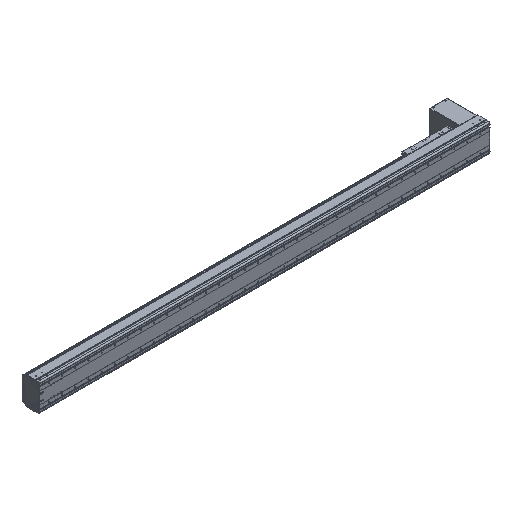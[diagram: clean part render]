
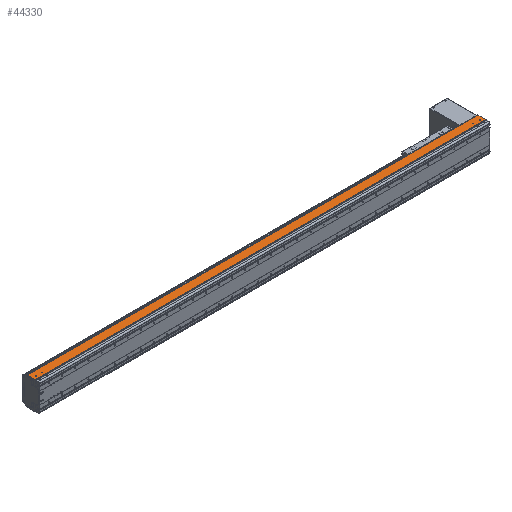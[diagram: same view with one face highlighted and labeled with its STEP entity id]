
A CAD part, isometric view. The second image highlights one B-rep face of the part: STEP entity #44330.
In plain terms, the highlighted planar face has unit normal (0, 0, 1).
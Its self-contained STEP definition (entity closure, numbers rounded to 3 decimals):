
#16192=DIRECTION('',(-1.,-0.006,-0.017));
#16193=VECTOR('',#16192,1.5);
#16194=CARTESIAN_POINT('',(1.5,94.,107.));
#16195=LINE('',#16194,#16193);
#16196=DIRECTION('',(-1.,0.,0.));
#16197=VECTOR('',#16196,3448.5);
#16198=CARTESIAN_POINT('',(0.,93.5,107.));
#16199=LINE('',#16198,#16197);
#16224=CARTESIAN_POINT('',(0.,93.992,
106.974));
#16225=CARTESIAN_POINT('',(0.,93.906,
106.974));
#16226=CARTESIAN_POINT('',(0.,93.75,
107.013));
#16227=CARTESIAN_POINT('',(0.,93.581,107.));
#16228=CARTESIAN_POINT('',(0.,93.5,107.));
#16230=CARTESIAN_POINT('',(-3423.5,54.,107.));
#16231=DIRECTION('',(0.,0.,-1.));
#16232=DIRECTION('',(1.,0.,0.));
#16233=AXIS2_PLACEMENT_3D('',#16230,#16231,#16232);
#16235=CARTESIAN_POINT('',(-3423.5,54.,107.));
#16236=DIRECTION('',(0.,0.,-1.));
#16237=DIRECTION('',(-1.,0.,0.));
#16238=AXIS2_PLACEMENT_3D('',#16235,#16236,#16237);
#16240=CARTESIAN_POINT('',(-3373.5,54.,107.));
#16241=DIRECTION('',(0.,0.,-1.));
#16242=DIRECTION('',(1.,0.,0.));
#16243=AXIS2_PLACEMENT_3D('',#16240,#16241,#16242);
#16245=CARTESIAN_POINT('',(-3373.5,54.,107.));
#16246=DIRECTION('',(0.,0.,-1.));
#16247=DIRECTION('',(-1.,0.,0.));
#16248=AXIS2_PLACEMENT_3D('',#16245,#16246,#16247);
#16250=CARTESIAN_POINT('',(-23.5,54.,107.));
#16251=DIRECTION('',(0.,0.,-1.));
#16252=DIRECTION('',(1.,0.,0.));
#16253=AXIS2_PLACEMENT_3D('',#16250,#16251,#16252);
#16255=CARTESIAN_POINT('',(-23.5,54.,107.));
#16256=DIRECTION('',(0.,0.,-1.));
#16257=DIRECTION('',(-1.,0.,0.));
#16258=AXIS2_PLACEMENT_3D('',#16255,#16256,#16257);
#16260=CARTESIAN_POINT('',(-73.5,54.,107.));
#16261=DIRECTION('',(0.,0.,-1.));
#16262=DIRECTION('',(1.,0.,0.));
#16263=AXIS2_PLACEMENT_3D('',#16260,#16261,#16262);
#16265=CARTESIAN_POINT('',(-73.5,54.,107.));
#16266=DIRECTION('',(0.,0.,-1.));
#16267=DIRECTION('',(-1.,0.,0.));
#16268=AXIS2_PLACEMENT_3D('',#16265,#16266,#16267);
#16270=DIRECTION('',(0.,-1.,0.));
#16271=VECTOR('',#16270,2.55);
#16272=CARTESIAN_POINT('',(-3446.5,34.65,107.));
#16273=LINE('',#16272,#16271);
#16274=DIRECTION('',(0.,-1.,0.));
#16275=VECTOR('',#16274,58.85);
#16276=CARTESIAN_POINT('',(-3448.5,93.5,107.));
#16277=LINE('',#16276,#16275);
#16278=DIRECTION('',(0.,1.,0.));
#16279=VECTOR('',#16278,58.35);
#16280=CARTESIAN_POINT('',(1.5,35.65,107.));
#16281=LINE('',#16280,#16279);
#16282=DIRECTION('',(0.,1.,0.));
#16283=VECTOR('',#16282,3.55);
#16284=CARTESIAN_POINT('',(0.,32.1,107.));
#16285=LINE('',#16284,#16283);
#16286=DIRECTION('',(1.,0.,0.));
#16287=VECTOR('',#16286,3446.5);
#16288=CARTESIAN_POINT('',(-3446.5,32.1,107.));
#16289=LINE('',#16288,#16287);
#16398=DIRECTION('',(1.,0.,0.));
#16399=VECTOR('',#16398,2.);
#16400=CARTESIAN_POINT('',(-3448.5,34.65,107.));
#16401=LINE('',#16400,#16399);
#16422=DIRECTION('',(1.,0.,0.));
#16423=VECTOR('',#16422,1.5);
#16424=CARTESIAN_POINT('',(0.,35.65,107.));
#16425=LINE('',#16424,#16423);
#20678=CARTESIAN_POINT('',(1.5,94.,107.));
#20679=VERTEX_POINT('',#20678);
#20680=CARTESIAN_POINT('',(1.5,35.65,107.));
#20681=VERTEX_POINT('',#20680);
#20750=CARTESIAN_POINT('',(-3448.5,34.65,107.));
#20751=VERTEX_POINT('',#20750);
#20752=CARTESIAN_POINT('',(-3448.5,93.5,107.));
#20753=VERTEX_POINT('',#20752);
#20978=CARTESIAN_POINT('',(-3446.5,32.1,107.));
#20979=VERTEX_POINT('',#20978);
#21029=CARTESIAN_POINT('',(0.,32.1,107.));
#21031=VERTEX_POINT('',#21029);
#21788=CARTESIAN_POINT('',(-3421.,54.,107.));
#21789=CARTESIAN_POINT('',(-3426.,54.,107.));
#21790=VERTEX_POINT('',#21788);
#21791=VERTEX_POINT('',#21789);
#21792=CARTESIAN_POINT('',(-3371.,54.,107.));
#21793=CARTESIAN_POINT('',(-3376.,54.,107.));
#21794=VERTEX_POINT('',#21792);
#21795=VERTEX_POINT('',#21793);
#21796=CARTESIAN_POINT('',(-21.,54.,107.));
#21797=CARTESIAN_POINT('',(-26.,54.,107.));
#21798=VERTEX_POINT('',#21796);
#21799=VERTEX_POINT('',#21797);
#21800=CARTESIAN_POINT('',(-71.,54.,107.));
#21801=CARTESIAN_POINT('',(-76.,54.,107.));
#21802=VERTEX_POINT('',#21800);
#21803=VERTEX_POINT('',#21801);
#24530=CARTESIAN_POINT('',(0.,35.65,107.));
#24531=VERTEX_POINT('',#24530);
#24664=VERTEX_POINT('',#16224);
#24665=VERTEX_POINT('',#16228);
#25121=CARTESIAN_POINT('',(-3446.5,34.65,107.));
#25122=VERTEX_POINT('',#25121);
#44286=CARTESIAN_POINT('',(-1723.25,62.8,107.));
#44287=DIRECTION('',(0.,0.,1.));
#44288=DIRECTION('',(0.,-1.,0.));
#44289=AXIS2_PLACEMENT_3D('',#44286,#44287,#44288);
#44290=PLANE('',#44289);
#44291=ORIENTED_EDGE('',*,*,#26195,.F.);
#44293=ORIENTED_EDGE('',*,*,#44292,.F.);
#44294=ORIENTED_EDGE('',*,*,#26851,.F.);
#44295=ORIENTED_EDGE('',*,*,#44272,.F.);
#44296=ORIENTED_EDGE('',*,*,#44281,.F.);
#44297=ORIENTED_EDGE('',*,*,#44262,.F.);
#44298=ORIENTED_EDGE('',*,*,#29084,.F.);
#44300=ORIENTED_EDGE('',*,*,#44299,.F.);
#44301=ORIENTED_EDGE('',*,*,#25959,.F.);
#44303=ORIENTED_EDGE('',*,*,#44302,.F.);
#44304=EDGE_LOOP('',(#44291,#44293,#44294,#44295,#44296,#44297,#44298,#44300,
#44301,#44303));
#44305=FACE_OUTER_BOUND('',#44304,.F.);
#44307=ORIENTED_EDGE('',*,*,#44306,.F.);
#44309=ORIENTED_EDGE('',*,*,#44308,.F.);
#44310=EDGE_LOOP('',(#44307,#44309));
#44311=FACE_BOUND('',#44310,.F.);
#44313=ORIENTED_EDGE('',*,*,#44312,.F.);
#44315=ORIENTED_EDGE('',*,*,#44314,.F.);
#44316=EDGE_LOOP('',(#44313,#44315));
#44317=FACE_BOUND('',#44316,.F.);
#44319=ORIENTED_EDGE('',*,*,#44318,.F.);
#44321=ORIENTED_EDGE('',*,*,#44320,.F.);
#44322=EDGE_LOOP('',(#44319,#44321));
#44323=FACE_BOUND('',#44322,.F.);
#44325=ORIENTED_EDGE('',*,*,#44324,.F.);
#44327=ORIENTED_EDGE('',*,*,#44326,.F.);
#44328=EDGE_LOOP('',(#44325,#44327));
#44329=FACE_BOUND('',#44328,.F.);
#44330=ADVANCED_FACE('',(#44305,#44311,#44317,#44323,#44329),#44290,.T.);
#16229=B_SPLINE_CURVE_WITH_KNOTS('',3,(#16224,#16225,#16226,#16227,#16228),
.UNSPECIFIED.,.F.,.F.,(4,1,4),(0.,0.5,1.),.UNSPECIFIED.);
#16234=CIRCLE('',#16233,2.5);
#16239=CIRCLE('',#16238,2.5);
#16244=CIRCLE('',#16243,2.5);
#16249=CIRCLE('',#16248,2.5);
#16254=CIRCLE('',#16253,2.5);
#16259=CIRCLE('',#16258,2.5);
#16264=CIRCLE('',#16263,2.5);
#16269=CIRCLE('',#16268,2.5);
#25959=EDGE_CURVE('',#21031,#24531,#16285,.T.);
#26195=EDGE_CURVE('',#25122,#20979,#16273,.T.);
#26851=EDGE_CURVE('',#20753,#20751,#16277,.T.);
#29084=EDGE_CURVE('',#20681,#20679,#16281,.T.);
#44262=EDGE_CURVE('',#20679,#24664,#16195,.T.);
#44272=EDGE_CURVE('',#24665,#20753,#16199,.T.);
#44281=EDGE_CURVE('',#24664,#24665,#16229,.T.);
#44292=EDGE_CURVE('',#20751,#25122,#16401,.T.);
#44299=EDGE_CURVE('',#24531,#20681,#16425,.T.);
#44302=EDGE_CURVE('',#20979,#21031,#16289,.T.);
#44306=EDGE_CURVE('',#21794,#21795,#16244,.T.);
#44308=EDGE_CURVE('',#21795,#21794,#16249,.T.);
#44312=EDGE_CURVE('',#21798,#21799,#16254,.T.);
#44314=EDGE_CURVE('',#21799,#21798,#16259,.T.);
#44318=EDGE_CURVE('',#21802,#21803,#16264,.T.);
#44320=EDGE_CURVE('',#21803,#21802,#16269,.T.);
#44324=EDGE_CURVE('',#21790,#21791,#16234,.T.);
#44326=EDGE_CURVE('',#21791,#21790,#16239,.T.);
